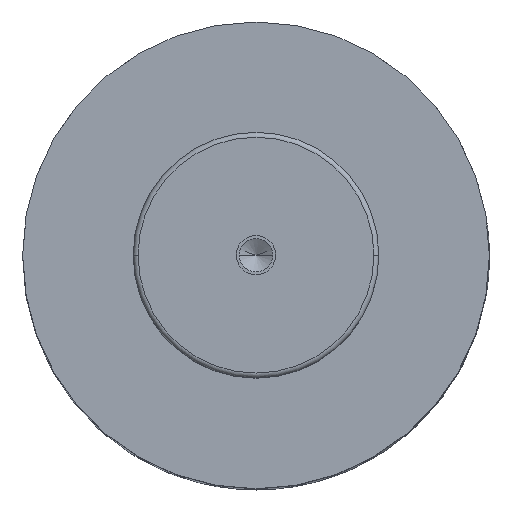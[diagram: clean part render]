
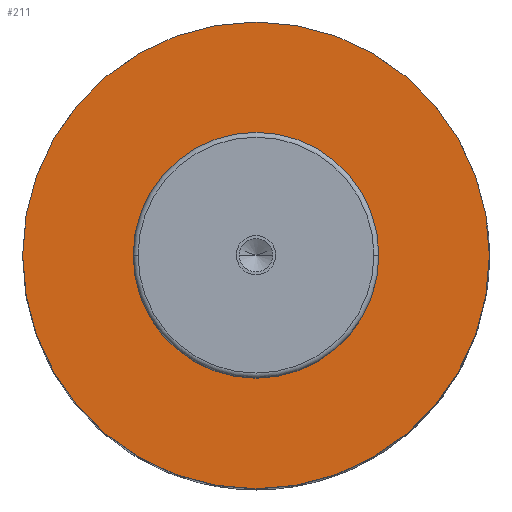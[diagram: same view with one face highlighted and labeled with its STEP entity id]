
A CAD part, top view. The second image highlights one B-rep face of the part: STEP entity #211.
In plain terms, the highlighted planar face has unit normal (0, 0, 1).
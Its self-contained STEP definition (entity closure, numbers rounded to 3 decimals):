
#109=PLANE('',#1266);
#138=FACE_BOUND('',#359,.T.);
#139=FACE_BOUND('',#360,.T.);
#211=ADVANCED_FACE('',(#138,#139),#109,.T.);
#359=EDGE_LOOP('',(#571,#572));
#360=EDGE_LOOP('',(#573,#574));
#451=CIRCLE('',#1260,25.);
#452=CIRCLE('',#1262,25.);
#453=CIRCLE('',#1264,47.5);
#454=CIRCLE('',#1265,47.5);
#571=ORIENTED_EDGE('',*,*,#970,.F.);
#572=ORIENTED_EDGE('',*,*,#971,.F.);
#573=ORIENTED_EDGE('',*,*,#969,.T.);
#574=ORIENTED_EDGE('',*,*,#967,.T.);
#856=VERTEX_POINT('',#1837);
#857=VERTEX_POINT('',#1839);
#858=VERTEX_POINT('',#1845);
#859=VERTEX_POINT('',#1846);
#967=EDGE_CURVE('',#857,#856,#451,.T.);
#969=EDGE_CURVE('',#856,#857,#452,.T.);
#970=EDGE_CURVE('',#858,#859,#453,.T.);
#971=EDGE_CURVE('',#859,#858,#454,.T.);
#1260=AXIS2_PLACEMENT_3D('',#1838,#1456,#1457);
#1262=AXIS2_PLACEMENT_3D('',#1842,#1461,#1462);
#1264=AXIS2_PLACEMENT_3D('',#1844,#1465,#1466);
#1265=AXIS2_PLACEMENT_3D('',#1847,#1467,#1468);
#1266=AXIS2_PLACEMENT_3D('',#1848,#1469,#1470);
#1456=DIRECTION('',(0.,0.,-1.));
#1457=DIRECTION('',(0.,1.,0.));
#1461=DIRECTION('',(0.,0.,-1.));
#1462=DIRECTION('',(0.,-1.,0.));
#1465=DIRECTION('',(0.,0.,-1.));
#1466=DIRECTION('',(0.,1.,0.));
#1467=DIRECTION('',(0.,0.,-1.));
#1468=DIRECTION('',(0.,-1.,0.));
#1469=DIRECTION('',(0.,0.,1.));
#1470=DIRECTION('',(0.,-1.,0.));
#1837=CARTESIAN_POINT('',(-25.,0.,142.));
#1838=CARTESIAN_POINT('',(0.,0.,142.));
#1839=CARTESIAN_POINT('',(25.,0.,142.));
#1842=CARTESIAN_POINT('',(0.,0.,142.));
#1844=CARTESIAN_POINT('',(0.,0.,142.));
#1845=CARTESIAN_POINT('',(47.5,0.,142.));
#1846=CARTESIAN_POINT('',(-47.5,0.,142.));
#1847=CARTESIAN_POINT('',(0.,0.,142.));
#1848=CARTESIAN_POINT('',(0.,0.,142.));
